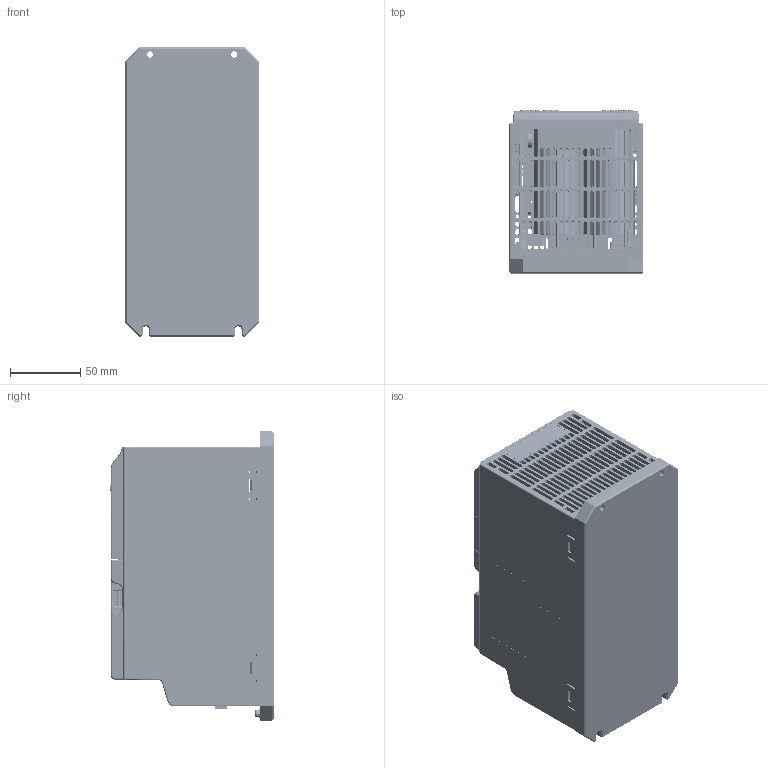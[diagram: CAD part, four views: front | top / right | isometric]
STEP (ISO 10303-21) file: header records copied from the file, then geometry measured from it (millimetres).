
FILE_DESCRIPTION((''),'2;1');
FILE_NAME('00_C','2019-01-24T09:05:43',('LIW2XI'),(''),'CREO PARAMETRIC BY PTC INC, 2017260','CREO PARAMETRIC BY PTC INC, 2017260','');
FILE_SCHEMA(('AUTOMOTIVE_DESIGN { 1 0 10303 214 1 1 1 1 }'));
Products named in the file (991): R912005577; EMC; LDZHJ_SZCYZT_M3X8; R912005575; _GND_DIANPIAN; LDZHJ_SZCYZT_M3X12; MODULE_IGBT; BOARD_CM3; EXTRUDED-11408_CM3; 590420064_CM3; PC21_CM3; EXTRUDED-11811_CM3; 590417504_CM3; EXTRUDED-12188_CM3; 590417376_CM3; R200_CM3; R201_CM3; CYLINDER-12629_CM3; 548587744_CM3; CE2_CM3; CE3_CM3; EXTRUDED-12826_CM3; 590420832_CM3; C317_CM3; C315_CM3; C314_CM3; C311_CM3; EXTRUDED-13305_CM3; 590421216_CM3; C309_CM3; C308_CM3; C307_CM3; C305_CM3; C303_CM3; C302_CM3; C300_CM3; C201_CM3; C200_CM3; C101_CM3; C100_CM3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
Assembly tree (1677 placements, depth 6):
  00_C
    R912005577
    EMC
    LDZHJ_SZCYZT_M3X8  x13
    R912005575
    _GND_DIANPIAN  x2
    LDZHJ_SZCYZT_M3X12  x3
    MODULE_IGBT
    YMB31_3
      PCB_CM3
        BOARD_CM3
        PC21_CM3
          590420064_CM3
            EXTRUDED-11408_CM3
        R200_CM3
          590417504_CM3  x2
            EXTRUDED-11811_CM3
          590417376_CM3
            EXTRUDED-12188_CM3
        R201_CM3
          590417504_CM3  x2
            EXTRUDED-11811_CM3
          590417376_CM3
            EXTRUDED-12188_CM3
        CE2_CM3
          548587744_CM3
            CYLINDER-12629_CM3
        CE3_CM3
          548587744_CM3
            CYLINDER-12629_CM3
        C317_CM3
          590420832_CM3
            EXTRUDED-12826_CM3
        C315_CM3
          590420832_CM3
            EXTRUDED-12826_CM3
        C314_CM3
          590420832_CM3
            EXTRUDED-12826_CM3
        C311_CM3
          590420832_CM3
            EXTRUDED-12826_CM3
        C309_CM3
          590421216_CM3
            EXTRUDED-13305_CM3
        C308_CM3
          590420832_CM3
            EXTRUDED-12826_CM3
        C307_CM3
          590420832_CM3
            EXTRUDED-12826_CM3
        C305_CM3
          590420832_CM3
            EXTRUDED-12826_CM3
        C303_CM3
          590421216_CM3
            EXTRUDED-13305_CM3
        C302_CM3
          590420832_CM3
            EXTRUDED-12826_CM3
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Bounding box: 95.1 x 116.24 x 206 mm (x, y, z)
Volume: 1094705.5 mm3; surface area: 641539.8 mm2
Topology: 888 solids, 889 shells, 13787 faces, 33640 edges, 21884 vertices
Faces by surface type: plane 9445, cylinder 3055, torus 552, bspline 345, cone 211, extrusion 153, sphere 26
Entity records: 409477 total; most frequent: CARTESIAN_POINT 78859, DIRECTION 51420, ORIENTED_EDGE 44702, EDGE_CURVE 22351, PRESENTATION_STYLE_ASSIGNMENT 19458, STYLED_ITEM 18971, CURVE_STYLE 18728, AXIS2_PLACEMENT_3D 17911
